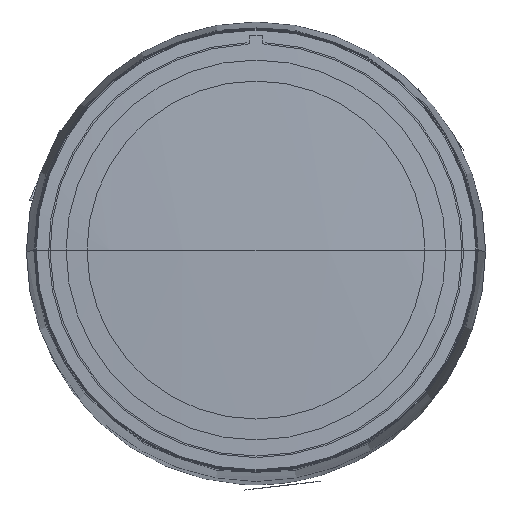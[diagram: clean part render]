
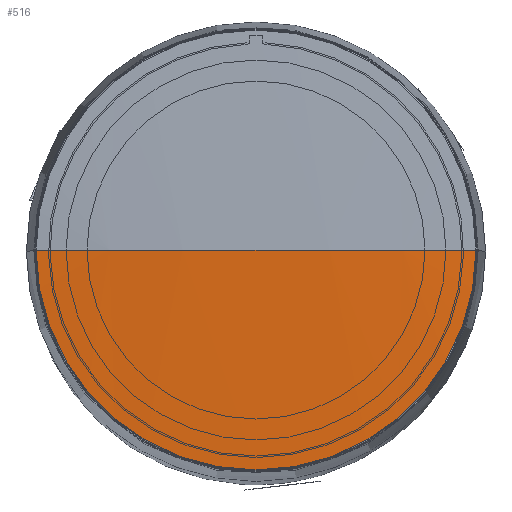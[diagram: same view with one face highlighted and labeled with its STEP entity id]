
A CAD part, top view. The second image highlights one B-rep face of the part: STEP entity #516.
In plain terms, the highlighted spherical face has radius 425.223 mm.
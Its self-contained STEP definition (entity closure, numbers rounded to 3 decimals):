
#160=CARTESIAN_POINT('',(0.,0.,-418.223));
#161=DIRECTION('',(0.,-1.,0.));
#162=DIRECTION('',(0.,0.,1.));
#163=AXIS2_PLACEMENT_3D('',#160,#161,#162);
#165=CARTESIAN_POINT('',(0.,0.,-418.223));
#166=DIRECTION('',(0.,1.,0.));
#167=DIRECTION('',(0.,0.,1.));
#168=AXIS2_PLACEMENT_3D('',#165,#166,#167);
#245=CARTESIAN_POINT('',(0.,0.,6.013));
#246=DIRECTION('',(0.,0.,-1.));
#247=DIRECTION('',(1.,0.,0.));
#248=AXIS2_PLACEMENT_3D('',#245,#246,#247);
#359=CARTESIAN_POINT('',(0.,0.,7.));
#360=CARTESIAN_POINT('',(28.962,0.,6.013));
#361=VERTEX_POINT('',#359);
#362=VERTEX_POINT('',#360);
#363=CARTESIAN_POINT('',(-28.962,0.,6.013));
#364=VERTEX_POINT('',#363);
#505=CARTESIAN_POINT('',(0.,0.,-418.223));
#506=DIRECTION('',(0.,0.,-1.));
#507=DIRECTION('',(-1.,0.,0.));
#508=AXIS2_PLACEMENT_3D('',#505,#506,#507);
#509=SPHERICAL_SURFACE('',#508,425.223);
#511=ORIENTED_EDGE('',*,*,#510,.T.);
#512=ORIENTED_EDGE('',*,*,#500,.F.);
#513=ORIENTED_EDGE('',*,*,#498,.T.);
#514=EDGE_LOOP('',(#511,#512,#513));
#515=FACE_OUTER_BOUND('',#514,.F.);
#516=ADVANCED_FACE('',(#515),#509,.T.);
#164=CIRCLE('',#163,425.223);
#169=CIRCLE('',#168,425.223);
#249=CIRCLE('',#248,28.962);
#498=EDGE_CURVE('',#361,#362,#169,.T.);
#500=EDGE_CURVE('',#361,#364,#164,.T.);
#510=EDGE_CURVE('',#362,#364,#249,.T.);
